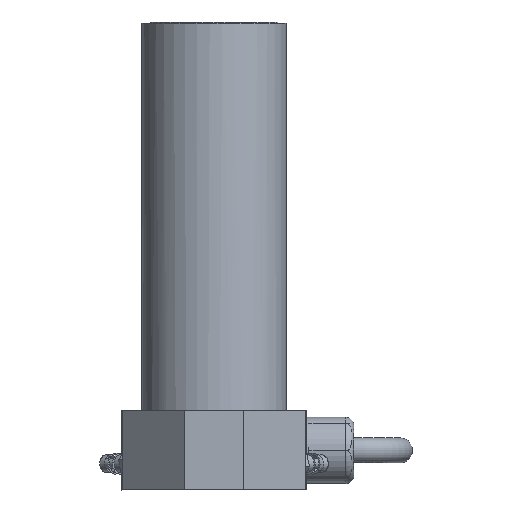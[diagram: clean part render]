
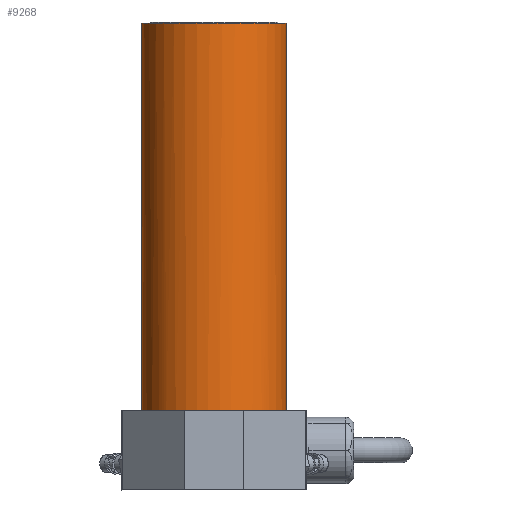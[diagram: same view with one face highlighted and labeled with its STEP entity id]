
A CAD part, left-side view. The second image highlights one B-rep face of the part: STEP entity #9268.
In plain terms, the highlighted cylindrical face has radius 17.462 mm (diameter 34.925 mm), a full revolution.
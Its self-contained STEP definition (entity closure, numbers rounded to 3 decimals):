
#243=CYLINDRICAL_SURFACE('',#9842,17.463);
#500=CIRCLE('',#9840,17.463);
#502=CIRCLE('',#9843,17.463);
#503=CIRCLE('',#9844,17.463);
#504=CIRCLE('',#9845,17.463);
#505=CIRCLE('',#9846,17.463);
#506=CIRCLE('',#9847,17.463);
#1335=FACE_OUTER_BOUND('',#1852,.T.);
#1852=EDGE_LOOP('',(#6409,#6410,#6411,#6412,#6413,#6414,#6415,#6416));
#2455=LINE('',#13469,#3257);
#3257=VECTOR('',#10767,17.463);
#4084=VERTEX_POINT('',#13463);
#4086=VERTEX_POINT('',#13468);
#4087=VERTEX_POINT('',#13470);
#4088=VERTEX_POINT('',#13472);
#4089=VERTEX_POINT('',#13474);
#4090=VERTEX_POINT('',#13476);
#5010=EDGE_CURVE('',#4084,#4084,#500,.T.);
#5012=EDGE_CURVE('',#4084,#4086,#2455,.T.);
#5013=EDGE_CURVE('',#4087,#4086,#502,.T.);
#5014=EDGE_CURVE('',#4088,#4087,#503,.T.);
#5015=EDGE_CURVE('',#4089,#4088,#504,.T.);
#5016=EDGE_CURVE('',#4090,#4089,#505,.T.);
#5017=EDGE_CURVE('',#4086,#4090,#506,.T.);
#6409=ORIENTED_EDGE('',*,*,#5010,.T.);
#6410=ORIENTED_EDGE('',*,*,#5012,.T.);
#6411=ORIENTED_EDGE('',*,*,#5013,.F.);
#6412=ORIENTED_EDGE('',*,*,#5014,.F.);
#6413=ORIENTED_EDGE('',*,*,#5015,.F.);
#6414=ORIENTED_EDGE('',*,*,#5016,.F.);
#6415=ORIENTED_EDGE('',*,*,#5017,.F.);
#6416=ORIENTED_EDGE('',*,*,#5012,.F.);
#9268=ADVANCED_FACE('',(#1335),#243,.T.);
#9840=AXIS2_PLACEMENT_3D('',#13464,#10761,#10762);
#9842=AXIS2_PLACEMENT_3D('',#13467,#10765,#10766);
#9843=AXIS2_PLACEMENT_3D('',#13471,#10768,#10769);
#9844=AXIS2_PLACEMENT_3D('',#13473,#10770,#10771);
#9845=AXIS2_PLACEMENT_3D('',#13475,#10772,#10773);
#9846=AXIS2_PLACEMENT_3D('',#13477,#10774,#10775);
#9847=AXIS2_PLACEMENT_3D('',#13478,#10776,#10777);
#10761=DIRECTION('center_axis',(0.,0.,
-1.));
#10762=DIRECTION('ref_axis',(-0.917,0.399,0.));
#10765=DIRECTION('center_axis',(0.,0.,
1.));
#10766=DIRECTION('ref_axis',(-0.917,0.399,0.));
#10767=DIRECTION('',(0.,0.,-1.));
#10768=DIRECTION('center_axis',(0.,0.,
-1.));
#10769=DIRECTION('ref_axis',(-0.917,0.399,0.));
#10770=DIRECTION('center_axis',(0.,0.,
-1.));
#10771=DIRECTION('ref_axis',(-0.917,0.399,0.));
#10772=DIRECTION('center_axis',(0.,0.,
-1.));
#10773=DIRECTION('ref_axis',(-0.917,0.399,0.));
#10774=DIRECTION('center_axis',(0.,0.,
-1.));
#10775=DIRECTION('ref_axis',(-0.917,0.399,0.));
#10776=DIRECTION('center_axis',(0.,0.,
-1.));
#10777=DIRECTION('ref_axis',(-0.917,0.399,0.));
#13463=CARTESIAN_POINT('',(16.014,-6.965,112.268));
#13464=CARTESIAN_POINT('Origin',(0.,0.,
112.268));
#13467=CARTESIAN_POINT('Origin',(0.,0.,
19.05));
#13468=CARTESIAN_POINT('',(16.014,-6.965,19.05));
#13469=CARTESIAN_POINT('',(16.014,-6.965,19.05));
#13470=CARTESIAN_POINT('',(-11.475,13.163,19.05));
#13471=CARTESIAN_POINT('Origin',(0.,0.,
19.05));
#13472=CARTESIAN_POINT('',(-13.163,11.475,19.05));
#13473=CARTESIAN_POINT('Origin',(0.,0.,
19.05));
#13474=CARTESIAN_POINT('',(-13.163,-11.475,19.05));
#13475=CARTESIAN_POINT('Origin',(0.,0.,
19.05));
#13476=CARTESIAN_POINT('',(-11.475,-13.163,19.05));
#13477=CARTESIAN_POINT('Origin',(0.,0.,
19.05));
#13478=CARTESIAN_POINT('Origin',(0.,0.,
19.05));
